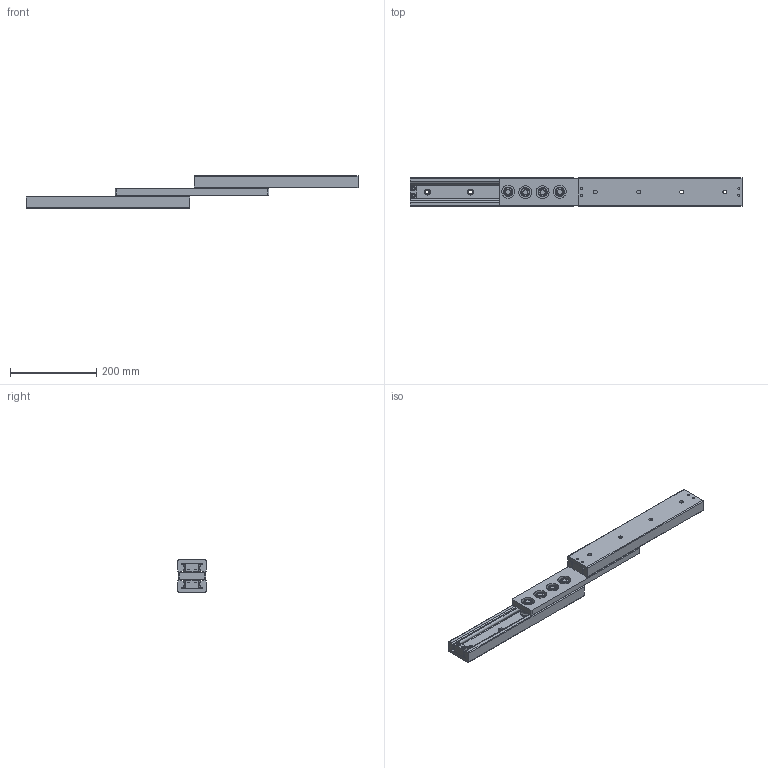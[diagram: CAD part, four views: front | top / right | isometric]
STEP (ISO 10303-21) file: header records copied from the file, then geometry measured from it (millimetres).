
FILE_DESCRIPTION (( 'STEP AP214' ), '1' );
FILE_NAME ('LSIM65DF.STEP', '2021-06-14T01:49:35', ( '' ), ( '' ), 'SwSTEP 2.0', 'SolidWorks 2019', '' );
FILE_SCHEMA (( 'AUTOMOTIVE_DESIGN' ));
Length unit declared in the file: millimetre
Products named in the file (4): LSIM65DFレール; LSIM65DFリテーナ; LSIM65ストッパー; LSIM65DF
Assembly tree (7 placements, depth 2):
  LSIM65DF
    LSIM65DFリテーナ
    LSIM65DFレール  x2
    LSIM65ストッパー  x4
Bounding box: 770 x 65 x 76 mm (x, y, z)
Volume: 1240399.6 mm3; surface area: 297233.9 mm2
Topology: 7 solids, 7 shells, 490 faces, 1056 edges, 668 vertices
Faces by surface type: plane 254, cylinder 124, cone 104, torus 8
Full cylindrical faces by diameter (mm): 4.2 x8, 5 x8, 8.5 x8, 9 x8, 9.5 x8, 12 x8, 14 x8, 18 x8, 21 x8, 30 x8, 35 x16
Entity records: 8748 total; most frequent: CARTESIAN_POINT 1818, DIRECTION 1422, ORIENTED_EDGE 1276, EDGE_CURVE 638, AXIS2_PLACEMENT_3D 620, EDGE_LOOP 504, VERTEX_POINT 440, FACE_OUTER_BOUND 420
